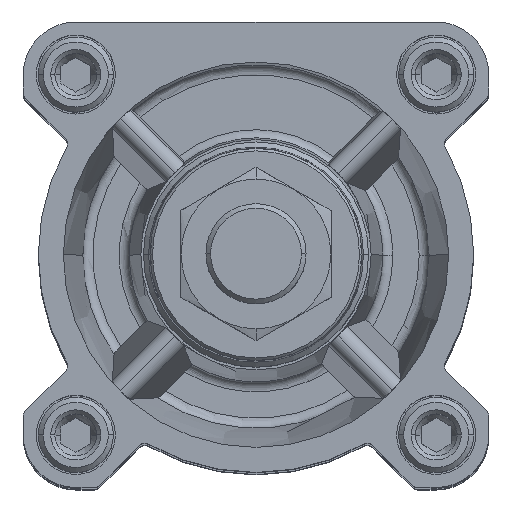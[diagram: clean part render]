
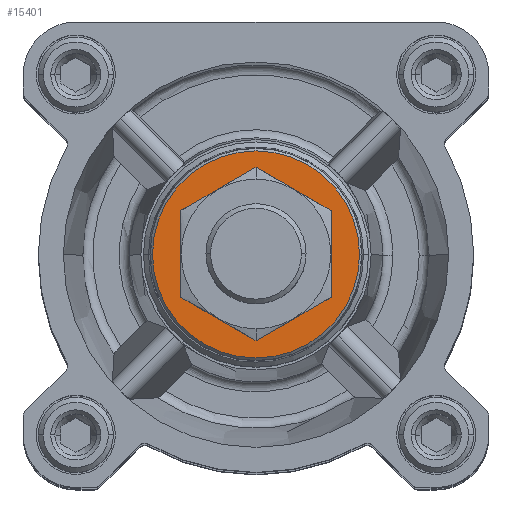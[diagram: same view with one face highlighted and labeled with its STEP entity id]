
A CAD part, top view. The second image highlights one B-rep face of the part: STEP entity #15401.
In plain terms, the highlighted planar face has unit normal (0, 0, 1).
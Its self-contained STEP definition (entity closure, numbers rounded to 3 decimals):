
#219 = DIRECTION ( 'NONE',  ( -1., 0., 0. ) ) ;
#868 = AXIS2_PLACEMENT_3D ( 'NONE', #9599, #5236, #9229 ) ;
#983 = EDGE_CURVE ( 'NONE', #14579, #1800, #16480, .T. ) ;
#1537 = DIRECTION ( 'NONE',  ( 0., -1., 0. ) ) ;
#1622 = CARTESIAN_POINT ( 'NONE',  ( 0., 0., 34.2 ) ) ;
#1800 = VERTEX_POINT ( 'NONE', #8044 ) ;
#2420 = VERTEX_POINT ( 'NONE', #17167 ) ;
#2830 = DIRECTION ( 'NONE',  ( -1., 0., 0. ) ) ;
#2841 = AXIS2_PLACEMENT_3D ( 'NONE', #1622, #14298, #1537 ) ;
#3217 = EDGE_CURVE ( 'NONE', #1800, #14579, #11702, .T. ) ;
#3546 = DIRECTION ( 'NONE',  ( 0., 0., -1. ) ) ;
#3625 = CARTESIAN_POINT ( 'NONE',  ( -20.686, 0., 34.2 ) ) ;
#3668 = EDGE_LOOP ( 'NONE', ( #13249, #18020 ) ) ;
#3757 = CARTESIAN_POINT ( 'NONE',  ( 0., 0., 34.2 ) ) ;
#5236 = DIRECTION ( 'NONE',  ( 0., 0., -1. ) ) ;
#5295 = AXIS2_PLACEMENT_3D ( 'NONE', #12171, #3546, #13778 ) ;
#5683 = PLANE ( 'NONE',  #2841 ) ;
#5717 = AXIS2_PLACEMENT_3D ( 'NONE', #3757, #15113, #219 ) ;
#5789 = ORIENTED_EDGE ( 'NONE', *, *, #3217, .T. ) ;
#8044 = CARTESIAN_POINT ( 'NONE',  ( 12.5, 0., 34.2 ) ) ;
#8091 = CIRCLE ( 'NONE', #868, 20.686 ) ;
#9229 = DIRECTION ( 'NONE',  ( -1., 0., 0. ) ) ;
#9329 = ORIENTED_EDGE ( 'NONE', *, *, #983, .T. ) ;
#9599 = CARTESIAN_POINT ( 'NONE',  ( 0., 0., 34.2 ) ) ;
#10078 = EDGE_CURVE ( 'NONE', #2420, #16209, #8091, .T. ) ;
#11465 = CIRCLE ( 'NONE', #5717, 20.686 ) ;
#11702 = CIRCLE ( 'NONE', #12614, 12.5 ) ;
#12171 = CARTESIAN_POINT ( 'NONE',  ( 0., 0., 34.2 ) ) ;
#12614 = AXIS2_PLACEMENT_3D ( 'NONE', #17215, #18350, #2830 ) ;
#13249 = ORIENTED_EDGE ( 'NONE', *, *, #14355, .F. ) ;
#13778 = DIRECTION ( 'NONE',  ( -1., 0., 0. ) ) ;
#14214 = FACE_OUTER_BOUND ( 'NONE', #3668, .T. ) ;
#14298 = DIRECTION ( 'NONE',  ( 0., 0., -1. ) ) ;
#14355 = EDGE_CURVE ( 'NONE', #16209, #2420, #11465, .T. ) ;
#14579 = VERTEX_POINT ( 'NONE', #17276 ) ;
#15113 = DIRECTION ( 'NONE',  ( 0., 0., -1. ) ) ;
#15401 = ADVANCED_FACE ( 'NONE', ( #14214, #15998 ), #5683, .F. ) ;
#15998 = FACE_BOUND ( 'NONE', #16820, .T. ) ;
#16209 = VERTEX_POINT ( 'NONE', #3625 ) ;
#16480 = CIRCLE ( 'NONE', #5295, 12.5 ) ;
#16820 = EDGE_LOOP ( 'NONE', ( #9329, #5789 ) ) ;
#17167 = CARTESIAN_POINT ( 'NONE',  ( 20.686, 0., 34.2 ) ) ;
#17215 = CARTESIAN_POINT ( 'NONE',  ( 0., 0., 34.2 ) ) ;
#17276 = CARTESIAN_POINT ( 'NONE',  ( -12.5, 0., 34.2 ) ) ;
#18020 = ORIENTED_EDGE ( 'NONE', *, *, #10078, .F. ) ;
#18350 = DIRECTION ( 'NONE',  ( 0., 0., -1. ) ) ;
